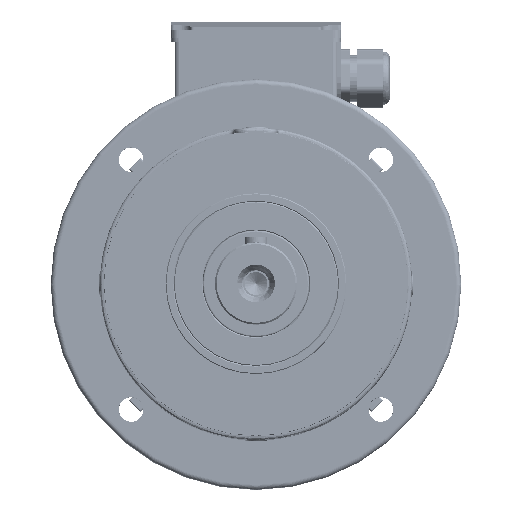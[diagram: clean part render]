
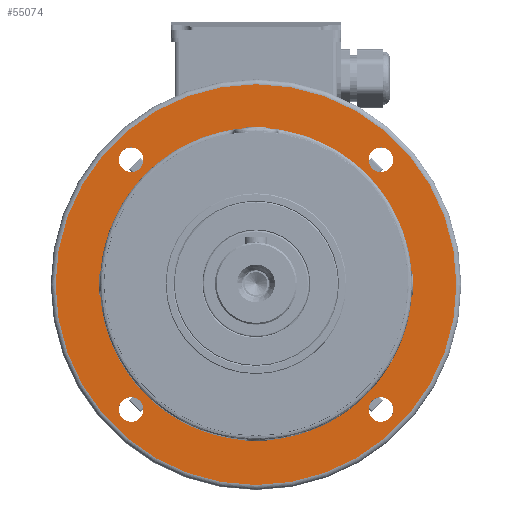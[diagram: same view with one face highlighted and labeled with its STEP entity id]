
A CAD part, top view. The second image highlights one B-rep face of the part: STEP entity #55074.
In plain terms, the highlighted planar face has unit normal (0, 0, 1).
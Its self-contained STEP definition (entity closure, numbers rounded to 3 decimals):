
#2623 = VERTEX_POINT ( 'NONE', #148526 ) ;
#2650 = VERTEX_POINT ( 'NONE', #148572 ) ;
#39610 = VERTEX_POINT ( 'NONE', #223503 ) ;
#39637 = VERTEX_POINT ( 'NONE', #223396 ) ;
#39714 = VERTEX_POINT ( 'NONE', #223641 ) ;
#39717 = VERTEX_POINT ( 'NONE', #223632 ) ;
#45543 = AXIS2_PLACEMENT_3D ( 'NONE', #245991, #245999, #245935 ) ;
#45557 = AXIS2_PLACEMENT_3D ( 'NONE', #246395, #246332, #246241 ) ;
#45561 = AXIS2_PLACEMENT_3D ( 'NONE', #246002, #246042, #245907 ) ;
#45563 = AXIS2_PLACEMENT_3D ( 'NONE', #250215, #250260, #250217 ) ;
#45603 = AXIS2_PLACEMENT_3D ( 'NONE', #249987, #249989, #250042 ) ;
#45609 = AXIS2_PLACEMENT_3D ( 'NONE', #250169, #250184, #250130 ) ;
#48621 = EDGE_CURVE ( 'NONE', #78608, #78685, #56885, .T. ) ;
#48669 = EDGE_CURVE ( 'NONE', #78682, #78629, #56940, .T. ) ;
#48847 = EDGE_CURVE ( 'NONE', #2650, #2623, #57165, .T. ) ;
#48874 = EDGE_CURVE ( 'NONE', #78624, #78606, #57060, .T. ) ;
#49016 = EDGE_CURVE ( 'NONE', #39637, #39714, #57321, .T. ) ;
#49192 = EDGE_CURVE ( 'NONE', #39717, #39610, #55263, .T. ) ;
#55074 = ADVANCED_FACE ( 'NONE', ( #190204, #190177, #190198, #190192, #190125, #190193 ), #199557, .T. ) ;
#55263 = CIRCLE ( 'NONE', #105433, 122. ) ;
#56885 = CIRCLE ( 'NONE', #105208, 7.5 ) ;
#56940 = CIRCLE ( 'NONE', #105184, 7.5 ) ;
#57060 = CIRCLE ( 'NONE', #105106, 7.5 ) ;
#57165 = CIRCLE ( 'NONE', #105166, 7.5 ) ;
#57321 = CIRCLE ( 'NONE', #105163, 92. ) ;
#71740 = CARTESIAN_POINT ( 'NONE',  ( 0., 0., -63. ) ) ;
#71809 = DIRECTION ( 'NONE',  ( 0., 0., 1. ) ) ;
#71811 = DIRECTION ( 'NONE',  ( 0., 1., 0. ) ) ;
#72525 = DIRECTION ( 'NONE',  ( 0., 0., -1. ) ) ;
#72543 = CARTESIAN_POINT ( 'NONE',  ( 76.014, 76.014, -63. ) ) ;
#72578 = DIRECTION ( 'NONE',  ( 0., 1., 0. ) ) ;
#72594 = DIRECTION ( 'NONE',  ( 0., 0., -1. ) ) ;
#72607 = CARTESIAN_POINT ( 'NONE',  ( 76.014, -76.014, -63. ) ) ;
#72611 = DIRECTION ( 'NONE',  ( 0., 1., 0. ) ) ;
#73290 = DIRECTION ( 'NONE',  ( 0., 0., -1. ) ) ;
#73328 = DIRECTION ( 'NONE',  ( 0., 1., 0. ) ) ;
#73346 = CARTESIAN_POINT ( 'NONE',  ( -76.014, 76.014, -63. ) ) ;
#73441 = DIRECTION ( 'NONE',  ( 0., 1., 0. ) ) ;
#73469 = DIRECTION ( 'NONE',  ( 0., 0., -1. ) ) ;
#73493 = CARTESIAN_POINT ( 'NONE',  ( -76.014, -76.014, -63. ) ) ;
#78319 = DIRECTION ( 'NONE',  ( 0., 1., 0. ) ) ;
#78357 = DIRECTION ( 'NONE',  ( 0., 0., 1. ) ) ;
#78399 = CARTESIAN_POINT ( 'NONE',  ( 0., 0., -63. ) ) ;
#78606 = VERTEX_POINT ( 'NONE', #205839 ) ;
#78608 = VERTEX_POINT ( 'NONE', #205861 ) ;
#78624 = VERTEX_POINT ( 'NONE', #205852 ) ;
#78629 = VERTEX_POINT ( 'NONE', #205876 ) ;
#78682 = VERTEX_POINT ( 'NONE', #205831 ) ;
#78685 = VERTEX_POINT ( 'NONE', #205882 ) ;
#83769 = EDGE_CURVE ( 'NONE', #2623, #2650, #201444, .T. ) ;
#83778 = EDGE_CURVE ( 'NONE', #39610, #39717, #201462, .T. ) ;
#83845 = EDGE_CURVE ( 'NONE', #78629, #78682, #201536, .T. ) ;
#83877 = EDGE_CURVE ( 'NONE', #78606, #78624, #201525, .T. ) ;
#83897 = EDGE_CURVE ( 'NONE', #78685, #78608, #201551, .T. ) ;
#83928 = EDGE_CURVE ( 'NONE', #39714, #39637, #201514, .T. ) ;
#105106 = AXIS2_PLACEMENT_3D ( 'NONE', #73493, #73469, #73441 ) ;
#105163 = AXIS2_PLACEMENT_3D ( 'NONE', #71740, #71809, #71811 ) ;
#105166 = AXIS2_PLACEMENT_3D ( 'NONE', #73346, #73290, #73328 ) ;
#105184 = AXIS2_PLACEMENT_3D ( 'NONE', #72607, #72594, #72611 ) ;
#105208 = AXIS2_PLACEMENT_3D ( 'NONE', #72543, #72525, #72578 ) ;
#105433 = AXIS2_PLACEMENT_3D ( 'NONE', #78399, #78357, #78319 ) ;
#137249 = EDGE_LOOP ( 'NONE', ( #246784, #246743 ) ) ;
#137282 = EDGE_LOOP ( 'NONE', ( #246789, #246645 ) ) ;
#137372 = EDGE_LOOP ( 'NONE', ( #246550, #246666 ) ) ;
#137444 = EDGE_LOOP ( 'NONE', ( #246781, #246680 ) ) ;
#137453 = EDGE_LOOP ( 'NONE', ( #246624, #246753 ) ) ;
#137485 = EDGE_LOOP ( 'NONE', ( #246611, #246632 ) ) ;
#148526 = CARTESIAN_POINT ( 'NONE',  ( -83.514, 76.014, -63. ) ) ;
#148572 = CARTESIAN_POINT ( 'NONE',  ( -68.514, 76.014, -63. ) ) ;
#180686 = AXIS2_PLACEMENT_3D ( 'NONE', #199468, #199482, #199525 ) ;
#190125 = FACE_BOUND ( 'NONE', #137249, .T. ) ;
#190177 = FACE_BOUND ( 'NONE', #137282, .T. ) ;
#190192 = FACE_BOUND ( 'NONE', #137485, .T. ) ;
#190193 = FACE_OUTER_BOUND ( 'NONE', #137372, .T. ) ;
#190198 = FACE_BOUND ( 'NONE', #137453, .T. ) ;
#190204 = FACE_BOUND ( 'NONE', #137444, .T. ) ;
#199468 = CARTESIAN_POINT ( 'NONE',  ( 0., 92., -63. ) ) ;
#199482 = DIRECTION ( 'NONE',  ( 0., 0., 1. ) ) ;
#199525 = DIRECTION ( 'NONE',  ( 0., 1., 0. ) ) ;
#199557 = PLANE ( 'NONE',  #180686 ) ;
#201444 = CIRCLE ( 'NONE', #45561, 7.5 ) ;
#201462 = CIRCLE ( 'NONE', #45543, 122. ) ;
#201514 = CIRCLE ( 'NONE', #45563, 92. ) ;
#201525 = CIRCLE ( 'NONE', #45603, 7.5 ) ;
#201536 = CIRCLE ( 'NONE', #45557, 7.5 ) ;
#201551 = CIRCLE ( 'NONE', #45609, 7.5 ) ;
#205831 = CARTESIAN_POINT ( 'NONE',  ( 83.514, -76.014, -63. ) ) ;
#205839 = CARTESIAN_POINT ( 'NONE',  ( -83.514, -76.014, -63. ) ) ;
#205852 = CARTESIAN_POINT ( 'NONE',  ( -68.514, -76.014, -63. ) ) ;
#205861 = CARTESIAN_POINT ( 'NONE',  ( 83.514, 76.014, -63. ) ) ;
#205876 = CARTESIAN_POINT ( 'NONE',  ( 68.514, -76.014, -63. ) ) ;
#205882 = CARTESIAN_POINT ( 'NONE',  ( 68.514, 76.014, -63. ) ) ;
#223396 = CARTESIAN_POINT ( 'NONE',  ( 0., 92., -63. ) ) ;
#223503 = CARTESIAN_POINT ( 'NONE',  ( 0., -122., -63. ) ) ;
#223632 = CARTESIAN_POINT ( 'NONE',  ( 0., 122., -63. ) ) ;
#223641 = CARTESIAN_POINT ( 'NONE',  ( 0., -92., -63. ) ) ;
#245907 = DIRECTION ( 'NONE',  ( 0., 1., 0. ) ) ;
#245935 = DIRECTION ( 'NONE',  ( 0., 1., 0. ) ) ;
#245991 = CARTESIAN_POINT ( 'NONE',  ( 0., 0., -63. ) ) ;
#245999 = DIRECTION ( 'NONE',  ( 0., 0., 1. ) ) ;
#246002 = CARTESIAN_POINT ( 'NONE',  ( -76.014, 76.014, -63. ) ) ;
#246042 = DIRECTION ( 'NONE',  ( 0., 0., -1. ) ) ;
#246241 = DIRECTION ( 'NONE',  ( 0., 1., 0. ) ) ;
#246332 = DIRECTION ( 'NONE',  ( 0., 0., -1. ) ) ;
#246395 = CARTESIAN_POINT ( 'NONE',  ( 76.014, -76.014, -63. ) ) ;
#246550 = ORIENTED_EDGE ( 'NONE', *, *, #49192, .T. ) ;
#246611 = ORIENTED_EDGE ( 'NONE', *, *, #83769, .T. ) ;
#246624 = ORIENTED_EDGE ( 'NONE', *, *, #83877, .T. ) ;
#246632 = ORIENTED_EDGE ( 'NONE', *, *, #48847, .T. ) ;
#246645 = ORIENTED_EDGE ( 'NONE', *, *, #48669, .T. ) ;
#246666 = ORIENTED_EDGE ( 'NONE', *, *, #83778, .T. ) ;
#246680 = ORIENTED_EDGE ( 'NONE', *, *, #48621, .T. ) ;
#246743 = ORIENTED_EDGE ( 'NONE', *, *, #49016, .F. ) ;
#246753 = ORIENTED_EDGE ( 'NONE', *, *, #48874, .T. ) ;
#246781 = ORIENTED_EDGE ( 'NONE', *, *, #83897, .T. ) ;
#246784 = ORIENTED_EDGE ( 'NONE', *, *, #83928, .F. ) ;
#246789 = ORIENTED_EDGE ( 'NONE', *, *, #83845, .T. ) ;
#249987 = CARTESIAN_POINT ( 'NONE',  ( -76.014, -76.014, -63. ) ) ;
#249989 = DIRECTION ( 'NONE',  ( 0., 0., -1. ) ) ;
#250042 = DIRECTION ( 'NONE',  ( 0., 1., 0. ) ) ;
#250130 = DIRECTION ( 'NONE',  ( 0., 1., 0. ) ) ;
#250169 = CARTESIAN_POINT ( 'NONE',  ( 76.014, 76.014, -63. ) ) ;
#250184 = DIRECTION ( 'NONE',  ( 0., 0., -1. ) ) ;
#250215 = CARTESIAN_POINT ( 'NONE',  ( 0., 0., -63. ) ) ;
#250217 = DIRECTION ( 'NONE',  ( 0., 1., 0. ) ) ;
#250260 = DIRECTION ( 'NONE',  ( 0., 0., 1. ) ) ;
